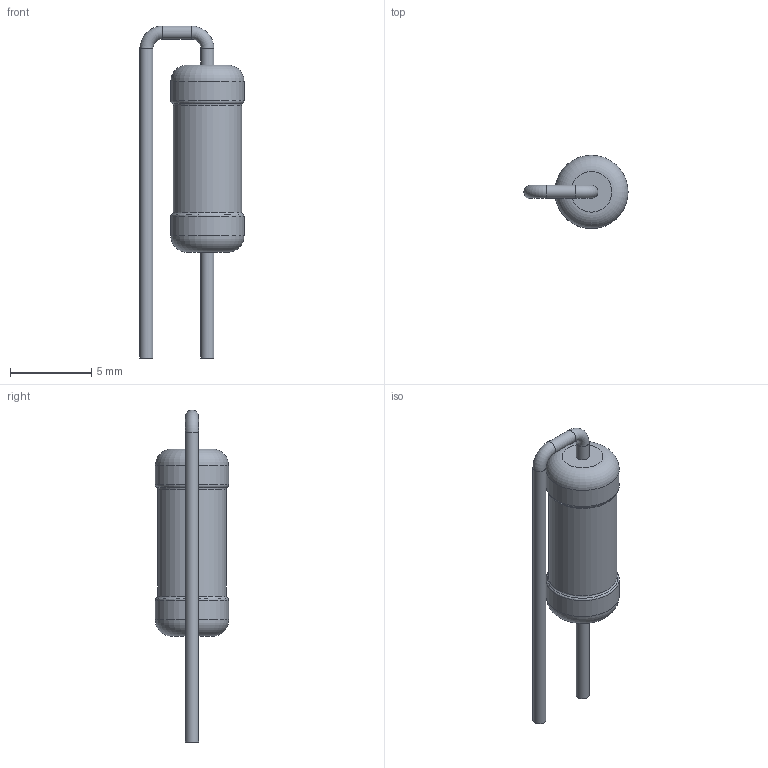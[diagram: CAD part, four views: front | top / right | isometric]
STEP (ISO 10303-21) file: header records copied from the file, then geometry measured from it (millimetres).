
FILE_DESCRIPTION(('STEP AP203'), '1');
FILE_NAME('栖闉罻', '', ('UNSPECIFIED'), ('UNSPECIFIED'), 'ASCON STEP Converter 1.6', 'ASCON Math Kernel', '');
FILE_SCHEMA(('CONFIG_CONTROL_DESIGN'));
Length unit declared in the file: millimetre
Assembly tree (1 placements, depth 2):
  (unnamed)
    (unnamed)
Bounding box: 6.4 x 4.5 x 20.4 mm (x, y, z)
Volume: 179.2 mm3; surface area: 255.3 mm2
Topology: 1 solids, 1 shells, 19 faces, 33 edges, 18 vertices
Faces by surface type: torus 8, cylinder 7, plane 4
Full cylindrical faces by diameter (mm): 0.8 x4, 4.2 x1, 4.5 x2
Entity records: 620 total; most frequent: DIRECTION 78, CARTESIAN_POINT 57, AXIS2_PLACEMENT_3D 39, EDGE_LOOP 36, ORIENTED_EDGE 36, FACE_OUTER_BOUND 30, COLOUR_RGB 20, FILL_AREA_STYLE_COLOUR 20
